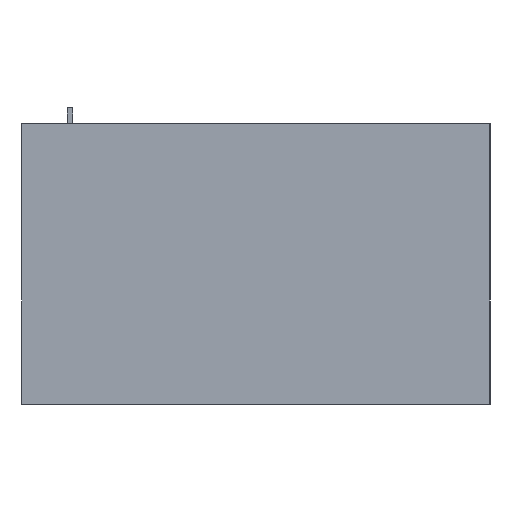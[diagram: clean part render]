
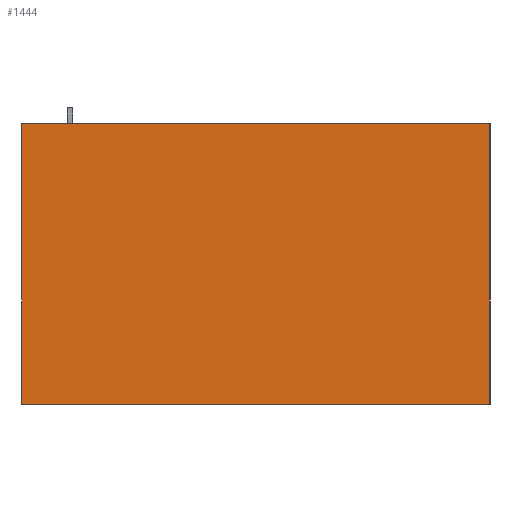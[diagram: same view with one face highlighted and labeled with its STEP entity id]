
A CAD part, left-side view. The second image highlights one B-rep face of the part: STEP entity #1444.
In plain terms, the highlighted planar face has unit normal (-1, 0, 0).
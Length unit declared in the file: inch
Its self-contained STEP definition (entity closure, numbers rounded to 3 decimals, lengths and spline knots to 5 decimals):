
#246=FACE_OUTER_BOUND('',#328,.T.);
#328=EDGE_LOOP('',(#1026,#1027,#1028,#1029));
#410=LINE('',#2096,#578);
#411=LINE('',#2098,#579);
#412=LINE('',#2100,#580);
#413=LINE('',#2101,#581);
#578=VECTOR('',#1733,0.3937);
#579=VECTOR('',#1734,0.3937);
#580=VECTOR('',#1735,0.3937);
#581=VECTOR('',#1736,0.3937);
#746=VERTEX_POINT('',#2094);
#747=VERTEX_POINT('',#2095);
#748=VERTEX_POINT('',#2097);
#749=VERTEX_POINT('',#2099);
#858=EDGE_CURVE('',#746,#747,#410,.T.);
#859=EDGE_CURVE('',#747,#748,#411,.T.);
#860=EDGE_CURVE('',#749,#748,#412,.T.);
#861=EDGE_CURVE('',#746,#749,#413,.T.);
#1026=ORIENTED_EDGE('',*,*,#858,.T.);
#1027=ORIENTED_EDGE('',*,*,#859,.T.);
#1028=ORIENTED_EDGE('',*,*,#860,.F.);
#1029=ORIENTED_EDGE('',*,*,#861,.F.);
#1362=PLANE('',#1631);
#1444=ADVANCED_FACE('',(#246),#1362,.T.);
#1631=AXIS2_PLACEMENT_3D('',#2093,#1731,#1732);
#1731=DIRECTION('center_axis',(-1.,0.,0.));
#1732=DIRECTION('ref_axis',(0.,-1.,0.));
#1733=DIRECTION('',(0.,-1.,0.));
#1734=DIRECTION('',(0.,0.,1.));
#1735=DIRECTION('',(0.,-1.,0.));
#1736=DIRECTION('',(0.,0.,1.));
#2093=CARTESIAN_POINT('Origin',(0.,35.,0.));
#2094=CARTESIAN_POINT('',(0.,35.,0.));
#2095=CARTESIAN_POINT('',(0.,0.,0.));
#2096=CARTESIAN_POINT('',(0.,35.,0.));
#2097=CARTESIAN_POINT('',(0.,0.,21.));
#2098=CARTESIAN_POINT('',(0.,0.,0.));
#2099=CARTESIAN_POINT('',(0.,35.,21.));
#2100=CARTESIAN_POINT('',(0.,35.,21.));
#2101=CARTESIAN_POINT('',(0.,35.,0.));
